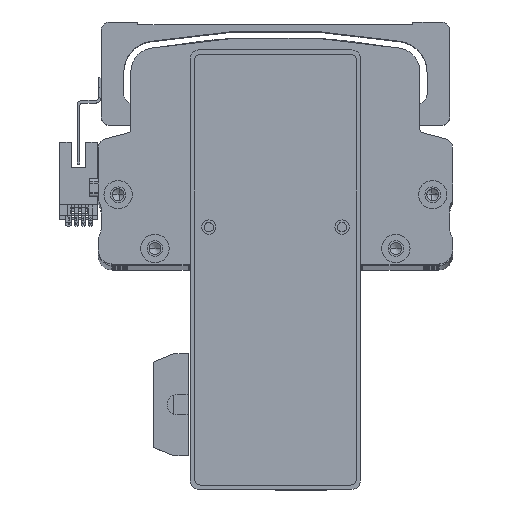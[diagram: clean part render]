
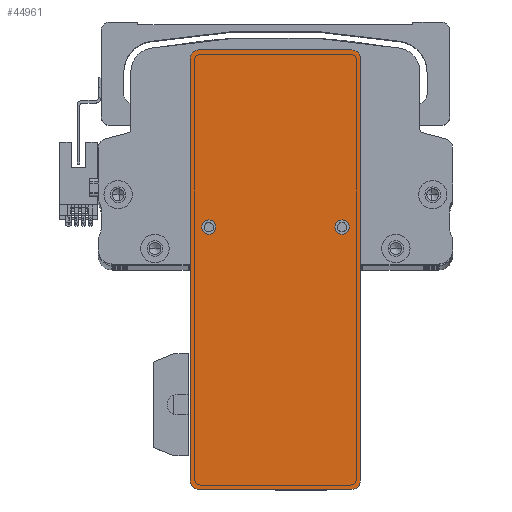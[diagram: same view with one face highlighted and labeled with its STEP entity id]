
A CAD part, top view. The second image highlights one B-rep face of the part: STEP entity #44961.
In plain terms, the highlighted planar face has unit normal (0, 0, 1) as drawn and (0, 0, -1) by its records, which use the part's own axes.
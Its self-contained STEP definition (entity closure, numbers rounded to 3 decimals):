
#156 = VERTEX_POINT ( 'NONE', #29397 ) ;
#1811 = DIRECTION ( 'NONE',  ( 0., 0., 1. ) ) ;
#2878 = DIRECTION ( 'NONE',  ( -1., 0., 0. ) ) ;
#2910 = DIRECTION ( 'NONE',  ( 1., 0., 0. ) ) ;
#3607 = DIRECTION ( 'NONE',  ( 0., 0., -1. ) ) ;
#4407 = CIRCLE ( 'NONE', #36624, 2.5 ) ;
#4415 = VERTEX_POINT ( 'NONE', #70633 ) ;
#4684 = CARTESIAN_POINT ( 'NONE',  ( -74.5, 30., 0. ) ) ;
#4752 = DIRECTION ( 'NONE',  ( 0., 0., -1. ) ) ;
#5667 = CARTESIAN_POINT ( 'NONE',  ( -74.5, -30., 0. ) ) ;
#7686 = CARTESIAN_POINT ( 'NONE',  ( -74.5, 27., 0. ) ) ;
#7925 = EDGE_CURVE ( 'NONE', #70558, #54519, #13458, .T. ) ;
#8190 = CARTESIAN_POINT ( 'NONE',  ( -77.5, -27., 0. ) ) ;
#9215 = LINE ( 'NONE', #81822, #74933 ) ;
#10000 = LINE ( 'NONE', #80826, #58769 ) ;
#10685 = CARTESIAN_POINT ( 'NONE',  ( 15., 23.5, 0. ) ) ;
#10967 = EDGE_CURVE ( 'NONE', #70558, #55054, #9215, .T. ) ;
#10979 = CIRCLE ( 'NONE', #52776, 2.5 ) ;
#13458 = CIRCLE ( 'NONE', #58149, 3. ) ;
#13674 = ORIENTED_EDGE ( 'NONE', *, *, #27186, .F. ) ;
#13813 = CARTESIAN_POINT ( 'NONE',  ( 17.5, 23.5, 0. ) ) ;
#14071 = DIRECTION ( 'NONE',  ( 1., 0., 0. ) ) ;
#14169 = AXIS2_PLACEMENT_3D ( 'NONE', #42796, #4752, #49254 ) ;
#16576 = CARTESIAN_POINT ( 'NONE',  ( 74.5, -30., 0. ) ) ;
#16630 = ORIENTED_EDGE ( 'NONE', *, *, #48556, .F. ) ;
#17083 = DIRECTION ( 'NONE',  ( -1., 0., 0. ) ) ;
#17273 = EDGE_CURVE ( 'NONE', #31881, #69512, #20857, .T. ) ;
#18338 = CARTESIAN_POINT ( 'NONE',  ( 12.5, 23.5, 0. ) ) ;
#18399 = VECTOR ( 'NONE', #66933, 1000. ) ;
#19228 = ORIENTED_EDGE ( 'NONE', *, *, #78634, .F. ) ;
#19357 = ORIENTED_EDGE ( 'NONE', *, *, #7925, .T. ) ;
#20265 = CARTESIAN_POINT ( 'NONE',  ( 74.5, -27., 0. ) ) ;
#20764 = EDGE_CURVE ( 'NONE', #28178, #54519, #51083, .T. ) ;
#20857 = LINE ( 'NONE', #47080, #52688 ) ;
#22397 = CARTESIAN_POINT ( 'NONE',  ( 77.5, -30., 0. ) ) ;
#22607 = ORIENTED_EDGE ( 'NONE', *, *, #72267, .T. ) ;
#23140 = CIRCLE ( 'NONE', #14169, 2.5 ) ;
#23242 = CARTESIAN_POINT ( 'NONE',  ( 15., -23.5, 0. ) ) ;
#23808 = CARTESIAN_POINT ( 'NONE',  ( 74.5, 30., 0. ) ) ;
#25998 = ORIENTED_EDGE ( 'NONE', *, *, #76391, .F. ) ;
#26635 = DIRECTION ( 'NONE',  ( 1., 0., 0. ) ) ;
#26660 = CARTESIAN_POINT ( 'NONE',  ( 15., 23.5, 0. ) ) ;
#27186 = EDGE_CURVE ( 'NONE', #45892, #48200, #4407, .T. ) ;
#28178 = VERTEX_POINT ( 'NONE', #5667 ) ;
#29297 = AXIS2_PLACEMENT_3D ( 'NONE', #79155, #40942, #2910 ) ;
#29397 = CARTESIAN_POINT ( 'NONE',  ( 17.5, -23.5, 0. ) ) ;
#29642 = DIRECTION ( 'NONE',  ( -1., 0., 0. ) ) ;
#30164 = CIRCLE ( 'NONE', #29297, 3. ) ;
#30400 = CIRCLE ( 'NONE', #75009, 2.5 ) ;
#31881 = VERTEX_POINT ( 'NONE', #23808 ) ;
#31900 = ORIENTED_EDGE ( 'NONE', *, *, #76705, .T. ) ;
#32535 = EDGE_LOOP ( 'NONE', ( #61289, #19357, #57821, #58571, #16630, #31900, #50037, #22607 ) ) ;
#33062 = DIRECTION ( 'NONE',  ( -1., 0., 0. ) ) ;
#34011 = EDGE_LOOP ( 'NONE', ( #44579, #25998 ) ) ;
#34574 = FACE_OUTER_BOUND ( 'NONE', #32535, .T. ) ;
#36624 = AXIS2_PLACEMENT_3D ( 'NONE', #26660, #71188, #33062 ) ;
#37454 = EDGE_CURVE ( 'NONE', #59926, #156, #23140, .T. ) ;
#39615 = EDGE_LOOP ( 'NONE', ( #13674, #19228 ) ) ;
#39807 = CARTESIAN_POINT ( 'NONE',  ( 0., 0., 0. ) ) ;
#40942 = DIRECTION ( 'NONE',  ( 0., 0., -1. ) ) ;
#41639 = CARTESIAN_POINT ( 'NONE',  ( 74.5, 27., 0. ) ) ;
#41860 = AXIS2_PLACEMENT_3D ( 'NONE', #7686, #52124, #14071 ) ;
#42796 = CARTESIAN_POINT ( 'NONE',  ( 15., -23.5, 0. ) ) ;
#43123 = CARTESIAN_POINT ( 'NONE',  ( 77.5, 27., 0. ) ) ;
#44579 = ORIENTED_EDGE ( 'NONE', *, *, #37454, .F. ) ;
#44961 = ADVANCED_FACE ( 'NONE', ( #51556, #66480, #34574 ), #58790, .F. ) ;
#45615 = CARTESIAN_POINT ( 'NONE',  ( 12.5, -23.5, 0. ) ) ;
#45892 = VERTEX_POINT ( 'NONE', #18338 ) ;
#46243 = DIRECTION ( 'NONE',  ( 1., 0., 0. ) ) ;
#47080 = CARTESIAN_POINT ( 'NONE',  ( 77.5, 30., 0. ) ) ;
#48092 = DIRECTION ( 'NONE',  ( 1., 0., 0. ) ) ;
#48200 = VERTEX_POINT ( 'NONE', #13813 ) ;
#48556 = EDGE_CURVE ( 'NONE', #4415, #62960, #10000, .T. ) ;
#49254 = DIRECTION ( 'NONE',  ( -1., 0., 0. ) ) ;
#49898 = CIRCLE ( 'NONE', #72549, 3. ) ;
#50037 = ORIENTED_EDGE ( 'NONE', *, *, #17273, .F. ) ;
#51083 = LINE ( 'NONE', #22397, #18399 ) ;
#51556 = FACE_BOUND ( 'NONE', #39615, .T. ) ;
#52124 = DIRECTION ( 'NONE',  ( 0., 0., -1. ) ) ;
#52688 = VECTOR ( 'NONE', #2878, 1000. ) ;
#52776 = AXIS2_PLACEMENT_3D ( 'NONE', #10685, #55145, #17083 ) ;
#54519 = VERTEX_POINT ( 'NONE', #16576 ) ;
#54845 = DIRECTION ( 'NONE',  ( 0., -1., 0. ) ) ;
#55054 = VERTEX_POINT ( 'NONE', #43123 ) ;
#55145 = DIRECTION ( 'NONE',  ( 0., 0., -1. ) ) ;
#55479 = AXIS2_PLACEMENT_3D ( 'NONE', #39807, #1811, #46243 ) ;
#56420 = DIRECTION ( 'NONE',  ( 0., 1., 0. ) ) ;
#56621 = EDGE_CURVE ( 'NONE', #28178, #62960, #30164, .T. ) ;
#57821 = ORIENTED_EDGE ( 'NONE', *, *, #20764, .F. ) ;
#58149 = AXIS2_PLACEMENT_3D ( 'NONE', #20265, #64785, #26635 ) ;
#58571 = ORIENTED_EDGE ( 'NONE', *, *, #56621, .T. ) ;
#58769 = VECTOR ( 'NONE', #54845, 1000. ) ;
#58790 = PLANE ( 'NONE',  #55479 ) ;
#59926 = VERTEX_POINT ( 'NONE', #45615 ) ;
#61289 = ORIENTED_EDGE ( 'NONE', *, *, #10967, .F. ) ;
#62960 = VERTEX_POINT ( 'NONE', #8190 ) ;
#63510 = CARTESIAN_POINT ( 'NONE',  ( 77.5, -27., 0. ) ) ;
#64785 = DIRECTION ( 'NONE',  ( 0., 0., -1. ) ) ;
#66480 = FACE_BOUND ( 'NONE', #34011, .T. ) ;
#66933 = DIRECTION ( 'NONE',  ( 1., 0., 0. ) ) ;
#67761 = DIRECTION ( 'NONE',  ( 0., 0., -1. ) ) ;
#69512 = VERTEX_POINT ( 'NONE', #4684 ) ;
#70558 = VERTEX_POINT ( 'NONE', #63510 ) ;
#70633 = CARTESIAN_POINT ( 'NONE',  ( -77.5, 27., 0. ) ) ;
#71188 = DIRECTION ( 'NONE',  ( 0., 0., -1. ) ) ;
#72267 = EDGE_CURVE ( 'NONE', #31881, #55054, #49898, .T. ) ;
#72549 = AXIS2_PLACEMENT_3D ( 'NONE', #41639, #3607, #48092 ) ;
#74933 = VECTOR ( 'NONE', #56420, 1000. ) ;
#75009 = AXIS2_PLACEMENT_3D ( 'NONE', #23242, #67761, #29642 ) ;
#76391 = EDGE_CURVE ( 'NONE', #156, #59926, #30400, .T. ) ;
#76705 = EDGE_CURVE ( 'NONE', #4415, #69512, #79117, .T. ) ;
#78634 = EDGE_CURVE ( 'NONE', #48200, #45892, #10979, .T. ) ;
#79117 = CIRCLE ( 'NONE', #41860, 3. ) ;
#79155 = CARTESIAN_POINT ( 'NONE',  ( -74.5, -27., 0. ) ) ;
#80826 = CARTESIAN_POINT ( 'NONE',  ( -77.5, -30., 0. ) ) ;
#81822 = CARTESIAN_POINT ( 'NONE',  ( 77.5, -30., 0. ) ) ;
